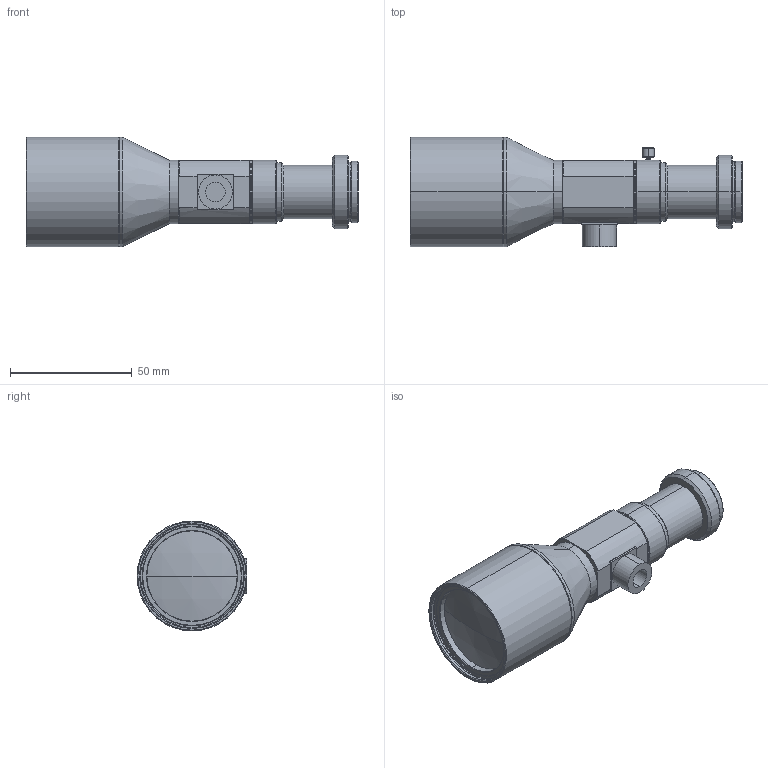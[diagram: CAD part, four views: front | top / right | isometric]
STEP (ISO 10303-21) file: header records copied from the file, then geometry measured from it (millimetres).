
FILE_DESCRIPTION (( 'STEP AP203' ), '1' );
FILE_NAME ('VS-TCM1-250CO_S.STEP', '2017-04-06T07:53:21', ( 'miura_vst' ), ( '' ), 'SwSTEP 2.0', 'SolidWorks 2017', '' );
FILE_SCHEMA (( 'CONFIG_CONTROL_DESIGN' ));
Length unit declared in the file: millimetre
Products named in the file (1): VS-TCM1-250CO_S
Bounding box: 136.17 x 45 x 45 mm (x, y, z)
Volume: 116960.3 mm3; surface area: 19217.5 mm2
Topology: 1 solids, 1 shells, 152 faces, 326 edges, 194 vertices
Faces by surface type: cone 70, cylinder 48, plane 30, sphere 4
Entity records: 4217 total; most frequent: DIRECTION 780, CARTESIAN_POINT 753, ORIENTED_EDGE 652, EDGE_CURVE 326, AXIS2_PLACEMENT_3D 319, VERTEX_POINT 194, EDGE_LOOP 170, CIRCLE 166
